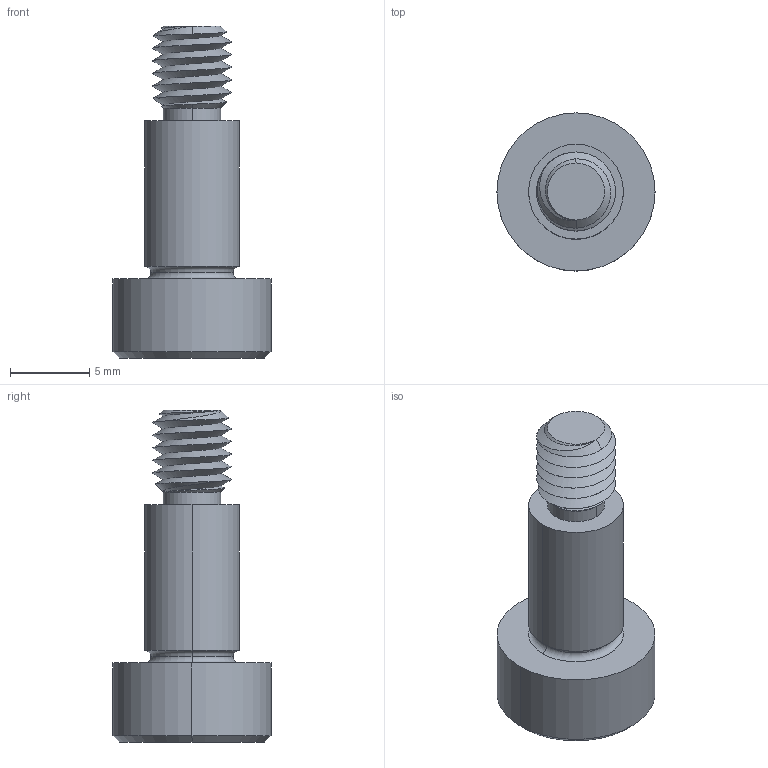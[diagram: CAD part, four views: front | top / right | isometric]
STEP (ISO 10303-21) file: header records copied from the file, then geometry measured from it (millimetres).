
FILE_DESCRIPTION (( 'STEP AP203' ), '1' );
FILE_NAME ('P0130.060-010-B2.step', '2021-11-09T21:23:17', ( '' ), ( '' ), 'SwSTEP 2.0', 'SolidWorks 2019', '' );
FILE_SCHEMA (( 'CONFIG_CONTROL_DESIGN' ));
Length unit declared in the file: millimetre
Products named in the file (1): P0130.060-010-B2
Bounding box: 10 x 10 x 21 mm (x, y, z)
Volume: 726.1 mm3; surface area: 676 mm2
Topology: 1 solids, 1 shells, 53 faces, 121 edges, 71 vertices
Faces by surface type: cylinder 17, plane 16, cone 14, torus 4, bspline 2
Entity records: 2367 total; most frequent: CARTESIAN_POINT 1186, ORIENTED_EDGE 238, DIRECTION 226, EDGE_CURVE 119, AXIS2_PLACEMENT_3D 92, VERTEX_POINT 71, EDGE_LOOP 56, FACE_OUTER_BOUND 53
